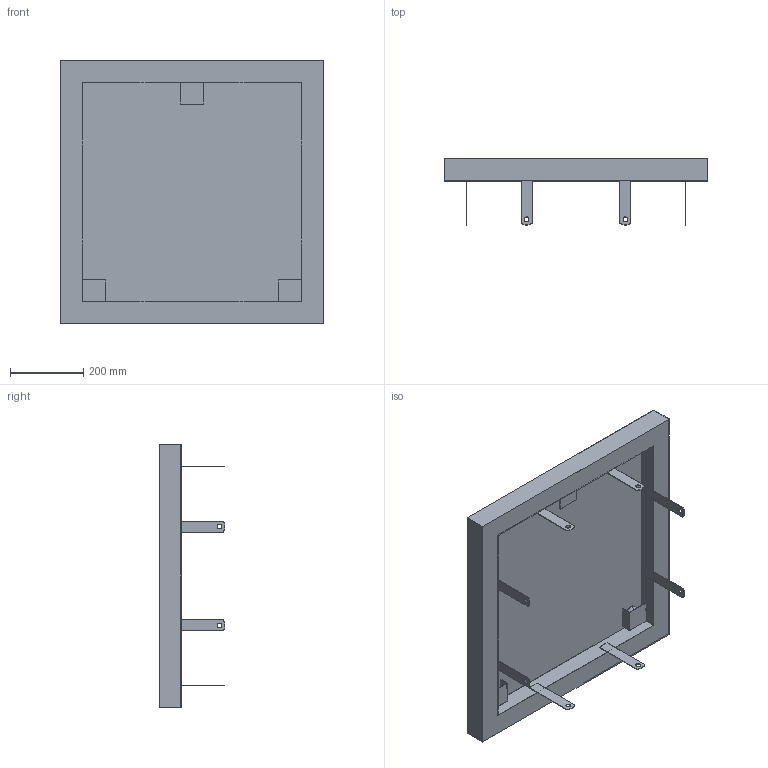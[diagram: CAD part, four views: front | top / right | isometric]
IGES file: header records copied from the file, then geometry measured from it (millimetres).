
Start section:  PTC IGES file: 51312676.igs
Global section: file name: 51312676.igs; native system: Creo Parametric by PTC Inc.; preprocessor: 2021184; author: wep; organization: Unknown; date: 20221125.104847; units: millimetre
Bounding box: 720 x 180 x 720 mm (x, y, z)
Surface area: 2131972.8 mm2 (no closed solid volume)
Topology: 0 solids, 0 shells, 146 faces, 736 edges, 736 vertices
Faces by surface type: bspline 104, revolution 42
